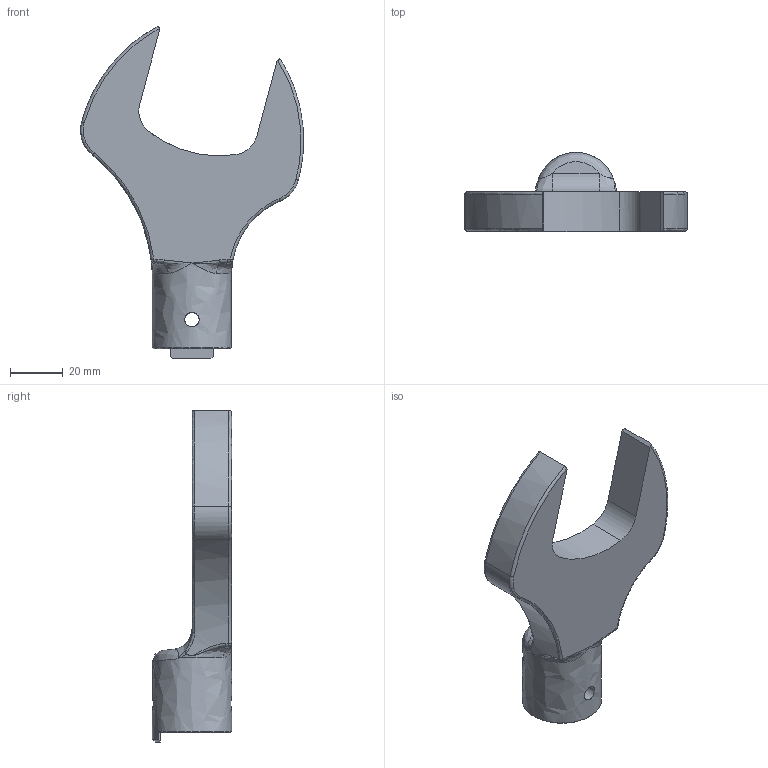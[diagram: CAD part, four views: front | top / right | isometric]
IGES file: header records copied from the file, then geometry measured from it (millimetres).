
Global section: file name: SH22DX46; native system: Autodesk Inventor 2016; preprocessor: unknown; author: Q600; date: 20151029.174504; units: millimetre
Bounding box: 84.41 x 30 x 125.78 mm (x, y, z)
Volume: 65144.9 mm3; surface area: 17405.2 mm2
Topology: 1 solids, 1 shells, 75 faces, 200 edges, 116 vertices
Faces by surface type: bspline 75
